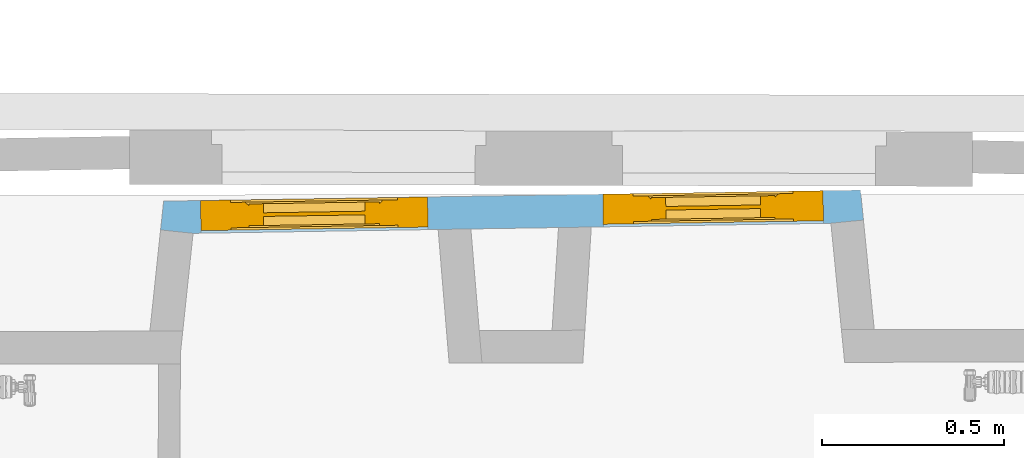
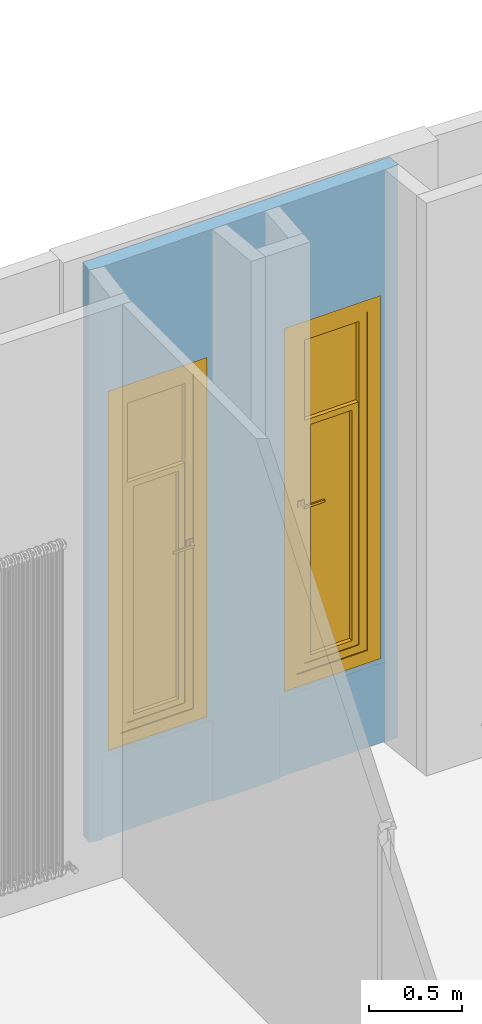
# One storey, part 45 of 66: 2 windows, 4 openings, plus 1 element that does not belong to this part.
"""IFC2X3 building model written with IfcOpenShell, lengths in centimetres."""

from ifc_helpers import new_model, entity, si_unit, converted_unit, direction, frame, origin, origin_with_axes, place, context, subcontext, project, spatial, polyline, outline, extrude, faceted_brep, shape, source, transform, mapped, material, material_list, layer, layer_set, layer_usage, type_object, element, fill, save


model = new_model("IFC2X3")

# Units and contexts
model_context = context("Model", 3, precision=0.0001, world=origin(), true_north=direction((0.225632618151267, 0.974212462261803, 0.0)))
body_context = subcontext(model_context, "Body", "Model", "MODEL_VIEW")
footprint_context = subcontext(model_context, "FootPrint", "Model", "MODEL_VIEW")
profile_context = subcontext(model_context, "Profile", "Model", "MODEL_VIEW")
ifc_project = project(units=[si_unit("LENGTHUNIT", "METRE", prefix="CENTI"), si_unit("AREAUNIT", "SQUARE_METRE", prefix="CENTI"), si_unit("VOLUMEUNIT", "CUBIC_METRE", prefix="CENTI"), converted_unit("PLANEANGLEUNIT", "DEGREE", entity("IfcRatioMeasure", 0.0174532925), si_unit("PLANEANGLEUNIT", "RADIAN"), dimensions=[0, 0, 0, 0, 0, 0, 0])], contexts=[model_context])

# Site, building, storey
site_placement = place(None, origin_with_axes())
site = spatial("IfcSite", under=ifc_project, at=site_placement, Name="Default Site", CompositionType="ELEMENT")
building_placement = place(site_placement, origin_with_axes())
building = spatial("IfcBuilding", under=site, at=building_placement, Name="Default Building", CompositionType="ELEMENT")
storey_placement = place(building_placement, frame((0.0, 0.0, 477.795358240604), z_axis=(0.0, 0.0, 1.0), x_axis=(1.0, 0.0, 0.0)))
storey = spatial("IfcBuildingStorey", under=building, at=storey_placement, Name="Niveau 1", CompositionType="ELEMENT", Elevation=477.795358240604)

# Wall, openings, windows
ifc_material_1 = material(Name="<aucun>")
ifc_layer = layer(ifc_material_1, 9.0)
ifc_layer_set = layer_set([ifc_layer], Name="default")
ifc_layer_usage = layer_usage(ifc_layer_set, "AXIS2", "POSITIVE", -4.5)
wall_type = type_object("IfcWallType", Name="default 90", PredefinedType="NOTDEFINED", material=ifc_layer_set)
wall_placement = place(storey_placement, frame((-307.962944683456, 587.821413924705, 0.0128503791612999), z_axis=(0.0, 0.0, 1.0), x_axis=(0.999874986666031, 0.015811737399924, 0.0)))
wall = element("IfcWallStandardCase", 1, at=wall_placement, inside=storey, type_object=wall_type, material=ifc_layer_usage, Name="Enveloppe 599706", context=body_context, shape_type="SweptSolid", body=[
    extrude(outline(polyline([(106.816633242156, 4.50000000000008), (82.6787422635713, 4.49999694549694), (-1.81313524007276, 4.49999999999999), (-2.77540691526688, -3.41363138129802), (6.158786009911, -4.50000000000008), (82.6785491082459, -4.50000000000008), (106.816633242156, -4.50000000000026), (181.848494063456, -4.50000000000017), (190.817765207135, -3.75691511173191), (190.133697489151, 4.49999999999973), (106.816633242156, 4.50000000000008)])), frame((0.0, 0.0, -2.66453525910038e-13), z_axis=(0.0, 0.0, 1.0), x_axis=(1.0, 0.0, 0.0)), (0.0, 0.0, 1.0), 376.102165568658),
])
opening_1_placement = place(wall_placement, frame((5.08544119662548, 1.13686837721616e-13, 1.77635683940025e-13), z_axis=(0.0, 0.0, 1.0), x_axis=(-1.0, 1.22471477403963e-15, 0.0)))
cartesian_point_1 = entity("IfcCartesianPoint", [0.0, 0.0, 54.0])
cartesian_point_2 = entity("IfcCartesianPoint", [-69.3089871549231, -4.50000000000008])
element("IfcOpeningElement", 2, at=opening_1_placement, cuts=wall, Name="Baie 103207", ObjectType="Recess", shapes=[
    shape(body_context, "Body", "Brep", [faceted_brep([(7.10847696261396e-06, 24.499992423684, -1.92276756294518e-05), (-69.3089985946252, 24.4999924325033, -1.92276756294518e-05), (-69.3089985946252, 24.4999924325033, 53.9999769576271), (7.10847696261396e-06, 24.499992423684, 53.9999769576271), (7.10580479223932e-06, 3.49998594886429, 53.9999769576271), (7.10580479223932e-06, 3.49998594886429, -1.92276756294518e-05), (6.07568608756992e-06, 3.49998594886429, -1.92276756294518e-05), (-69.3089757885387, 3.50001421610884, -1.92276756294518e-05), (-69.3089985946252, 24.5000210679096, -1.92276756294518e-05), (-69.3089985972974, 3.50001421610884, -1.92276756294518e-05), (-69.3089985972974, 3.50001421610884, 53.9999769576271), (-69.3089985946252, 24.5000210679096, 53.9999769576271), (-69.3089757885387, 3.50001421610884, 53.9999769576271), (6.07568608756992e-06, 3.49998594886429, 53.9999769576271), (6.0756860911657e-06, 3.50001420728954, -1.92276756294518e-05), (6.0756860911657e-06, 3.50001420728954, 53.9999769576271)], [[[0, 1, 2, 3]], [[3, 4, 5, 0]], [[0, 6, 7, 8]], [[8, 9, 10, 11]], [[11, 12, 13, 3]], [[12, 7, 14, 15]]])]),
    shape(profile_context, "Profile", "GeometricCurveSet", [entity("IfcGeometricCurveSet", [entity("IfcPolyline", [cartesian_point_1, entity("IfcCartesianPoint", [0.0, 0.0, 0.0]), entity("IfcCartesianPoint", [-69.308987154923, -8.88178419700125e-14, 0.0]), entity("IfcCartesianPoint", [-69.308987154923, -8.88178419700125e-14, 54.0]), cartesian_point_1])])]),
    shape(footprint_context, "FootPrint", "GeometricCurveSet", [entity("IfcGeometricCurveSet", [entity("IfcPolyline", [cartesian_point_2, entity("IfcCartesianPoint", [0.0, -4.49999999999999]), entity("IfcCartesianPoint", [0.0, 4.49999999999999]), entity("IfcCartesianPoint", [-69.3089871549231, 4.4999999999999]), cartesian_point_2])])]),
])
opening_2_placement = place(wall_placement, frame((115.898622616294, 0.0, 1.77635683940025e-13), z_axis=(0.0, 0.0, 1.0), x_axis=(-1.0, 1.79370407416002e-15, 0.0)))
cartesian_point_3 = entity("IfcCartesianPoint", [0.0, 8.88178419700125e-14, 52.9999999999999])
cartesian_point_4 = entity("IfcCartesianPoint", [-67.1698088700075, -4.4999999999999])
element("IfcOpeningElement", 3, at=opening_2_placement, cuts=wall, Name="Baie 103204", ObjectType="Recess", shapes=[
    shape(body_context, "Body", "Brep", [faceted_brep([(-8.58939741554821e-07, 24.5000033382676, -1.92276757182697e-05), (-67.1698028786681, 24.5000033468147, -1.92276757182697e-05), (-67.1698028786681, 24.5000033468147, 53.0000017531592), (-8.58939741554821e-07, 24.5000033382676, 53.0000017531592), (-8.61611899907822e-07, 3.49999686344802, 53.0000017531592), (-8.61611899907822e-07, 3.49999686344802, -1.92276757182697e-05), (-1.89173061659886e-06, 3.49999686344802, -1.92276757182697e-05), (-67.1698039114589, 3.50000873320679, -1.92276757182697e-05), (-67.1698028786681, 24.5000152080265, -1.92276757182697e-05), (-67.1698028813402, 3.50000873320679, -1.92276757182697e-05), (-67.1698028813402, 3.50000873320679, 53.0000017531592), (-67.1698028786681, 24.5000152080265, 53.0000017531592), (-67.1698039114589, 3.50000873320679, 53.0000017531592), (-1.89173061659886e-06, 3.49999686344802, 53.0000017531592), (-1.89173061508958e-06, 3.50000872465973, -1.92276757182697e-05), (-1.89173061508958e-06, 3.50000872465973, 53.0000017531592)], [[[0, 1, 2, 3]], [[3, 4, 5, 0]], [[0, 6, 7, 8]], [[8, 9, 10, 11]], [[11, 12, 13, 3]], [[12, 7, 14, 15]]])]),
    shape(profile_context, "Profile", "GeometricCurveSet", [entity("IfcGeometricCurveSet", [entity("IfcPolyline", [cartesian_point_3, entity("IfcCartesianPoint", [0.0, 8.88178419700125e-14, -8.88178419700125e-14]), entity("IfcCartesianPoint", [-67.1698088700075, 8.88178419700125e-14, -8.88178419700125e-14]), entity("IfcCartesianPoint", [-67.1698088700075, 8.88178419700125e-14, 52.9999999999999]), cartesian_point_3])])]),
    shape(footprint_context, "FootPrint", "GeometricCurveSet", [entity("IfcGeometricCurveSet", [entity("IfcPolyline", [cartesian_point_4, entity("IfcCartesianPoint", [2.22044604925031e-14, -4.4999999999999]), entity("IfcCartesianPoint", [2.22044604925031e-14, 4.50000000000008]), entity("IfcCartesianPoint", [-67.1698088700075, 4.50000000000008]), cartesian_point_4])])]),
])
opening_3_placement = place(wall_placement, frame((119.148622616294, 0.0, 55.5871496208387), z_axis=(0.0, 0.0, 1.0), x_axis=(-1.0, 1.79370407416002e-15, 0.0)))
cartesian_point_5 = entity("IfcCartesianPoint", [0.0, 0.0, 239.0])
cartesian_point_6 = entity("IfcCartesianPoint", [-60.6698088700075, -4.49999999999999])
opening_3 = element("IfcOpeningElement", 4, at=opening_3_placement, cuts=wall, Name="4294966425_11", ObjectType="Opening", shapes=[
    shape(body_context, "Body", "SweptSolid", [extrude(outline(polyline([(-2.22044604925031e-14, 239.0), (-2.22044604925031e-14, 0.0), (60.6698088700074, 0.0), (60.6698088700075, 239.0), (-2.22044604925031e-14, 239.0)])), frame((0.0, -14.5, 0.0), z_axis=(0.0, 1.0, 0.0), x_axis=(-1.0, 0.0, 0.0)), (0.0, 0.0, 1.0), 29.0)]),
    shape(profile_context, "Profile", "GeometricCurveSet", [entity("IfcGeometricCurveSet", [entity("IfcPolyline", [cartesian_point_5, entity("IfcCartesianPoint", [0.0, 0.0, 0.0]), entity("IfcCartesianPoint", [-60.6698088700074, 8.88178419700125e-14, 0.0]), entity("IfcCartesianPoint", [-60.6698088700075, 8.88178419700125e-14, 239.0]), cartesian_point_5])])]),
    shape(footprint_context, "FootPrint", "GeometricCurveSet", [entity("IfcGeometricCurveSet", [entity("IfcPolyline", [cartesian_point_6, entity("IfcCartesianPoint", [2.22044604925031e-14, -4.49999999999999]), entity("IfcCartesianPoint", [2.22044604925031e-14, 4.50000000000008]), entity("IfcCartesianPoint", [-60.6698088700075, 4.50000000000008]), cartesian_point_6])])]),
])
opening_4_placement = place(wall_placement, frame((8.33544119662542, 0.0, 56.5871496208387), z_axis=(0.0, 0.0, 1.0), x_axis=(-1.0, 1.22471477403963e-15, 0.0)))
cartesian_point_7 = entity("IfcCartesianPoint", [0.0, -8.88178419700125e-14, 236.5])
cartesian_point_8 = entity("IfcCartesianPoint", [-62.5589871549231, -4.49999999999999])
opening_4 = element("IfcOpeningElement", 5, at=opening_4_placement, cuts=wall, Name="4294966422_11", ObjectType="Opening", shapes=[
    shape(body_context, "Body", "SweptSolid", [extrude(outline(polyline([(0.0, 236.5), (0.0, -8.88178419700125e-14), (62.5589871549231, -8.88178419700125e-14), (62.5589871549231, 236.5), (0.0, 236.5)])), frame((0.0, -14.5, 0.0), z_axis=(0.0, 1.0, 0.0), x_axis=(-1.0, 0.0, 0.0)), (0.0, 0.0, 1.0), 29.0)]),
    shape(profile_context, "Profile", "GeometricCurveSet", [entity("IfcGeometricCurveSet", [entity("IfcPolyline", [cartesian_point_7, entity("IfcCartesianPoint", [0.0, -8.88178419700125e-14, -8.88178419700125e-14]), entity("IfcCartesianPoint", [-62.558987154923, 0.0, -8.88178419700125e-14]), entity("IfcCartesianPoint", [-62.558987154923, 0.0, 236.5]), cartesian_point_7])])]),
    shape(footprint_context, "FootPrint", "GeometricCurveSet", [entity("IfcGeometricCurveSet", [entity("IfcPolyline", [cartesian_point_8, entity("IfcCartesianPoint", [0.0, -4.50000000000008]), entity("IfcCartesianPoint", [4.44089209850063e-14, 4.4999999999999]), entity("IfcCartesianPoint", [-62.5589871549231, 4.49999999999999]), cartesian_point_8])])]),
])
ifc_material_2 = material(Name="Transparent")
ifc_material_3 = material(Name="Bleu france")
ifc_material_4 = material(Name="Aluminium satiné")
ifc_material_list = material_list([ifc_material_2, ifc_material_3, ifc_material_4])
window_style = type_object("IfcWindowStyle", Name="FN[R] 1VBM 2 DV", ConstructionType="NOTDEFINED", OperationType="DOUBLE_PANEL_HORIZONTAL", ParameterTakesPrecedence=True, Sizeable=False, material=ifc_material_list)
shared_shape_1 = source(origin_with_axes(), body_context, "Body", "Brep", [
    faceted_brep([(-22.9794934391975, 228.200006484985, -4.14999984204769), (-22.9794934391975, 228.200006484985, 4.14999984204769), (-22.9794934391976, 8.29999968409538, 4.14999984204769), (-22.9794934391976, 8.29999968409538, -4.14999984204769), (-31.2794923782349, 236.500000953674, 4.14999984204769), (-31.2794923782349, 0.0, 4.14999984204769), (-22.9794934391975, 8.29999968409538, 4.14999984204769), (-31.2794923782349, 236.500000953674, -4.14999984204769), (-31.2794923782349, 5.21181905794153e-31, -4.14999984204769), (-31.2794923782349, 5.21181905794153e-31, 4.14999984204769), (-22.9794934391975, 8.29999968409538, -4.14999984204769), (-31.2794923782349, 0.0, -4.14999984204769), (22.9794934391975, 8.29999968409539, 4.14999984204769), (22.9794934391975, 8.29999968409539, -4.14999984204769), (31.2794923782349, 0.0, 4.14999984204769), (22.9794934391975, 8.29999968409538, 4.14999984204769), (31.2794923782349, 0.0, -4.14999984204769), (22.9794934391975, 8.29999968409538, -4.14999984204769), (22.9794934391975, 228.200006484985, 4.14999984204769), (22.9794934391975, 228.200006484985, -4.14999984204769), (31.2794923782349, 236.500000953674, 4.14999984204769), (31.2794923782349, 236.500000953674, -4.14999984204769)], [[[0, 1, 2, 3]], [[1, 4, 5, 6]], [[4, 7, 8, 9]], [[7, 0, 10, 11]], [[10, 6, 12, 13]], [[6, 5, 14, 15]], [[5, 11, 16, 14]], [[11, 10, 17, 16]], [[17, 15, 18, 19]], [[15, 14, 20, 18]], [[14, 16, 21, 20]], [[16, 17, 19, 21]], [[19, 18, 1, 0]], [[18, 20, 4, 1]], [[20, 21, 7, 4]], [[21, 19, 0, 7]]]),
    faceted_brep([(-18.9794942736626, 224.200010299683, -3.50000001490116), (-17.9794940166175, 223.200011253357, -2.49999975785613), (-17.9794940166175, 13.3000001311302, -2.49999975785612), (-18.9794942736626, 12.3000003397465, -3.50000001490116), (-17.9794937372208, 223.200011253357, -2.5000000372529), (-17.9794937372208, 223.200011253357, 3.50000001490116), (-17.9794937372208, 13.3000001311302, 3.50000001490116), (-17.9794937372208, 13.3000001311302, -2.5000000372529), (-22.9794934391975, 228.200006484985, 3.50000001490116), (-22.9794934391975, 8.29999968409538, 3.50000001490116), (-22.9794934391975, 228.200006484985, -3.50000001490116), (-22.9794934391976, 8.29999968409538, -3.50000001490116), (-22.9794934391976, 8.29999968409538, 3.50000001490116), (-22.9794934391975, 8.29999968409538, -3.50000001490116), (-17.9794937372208, 13.3000002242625, -2.50000013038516), (17.9794937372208, 13.3000002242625, -2.50000013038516), (18.9794942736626, 12.3000003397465, -3.50000001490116), (17.9794937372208, 13.3000001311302, 3.50000001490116), (17.9794937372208, 13.3000001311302, -2.5000000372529), (22.9794934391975, 8.29999968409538, 3.50000001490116), (22.9794934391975, 8.29999968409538, -3.50000001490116), (17.9794940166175, 13.3000001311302, -2.49999975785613), (17.9794940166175, 223.200011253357, -2.49999975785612), (18.9794942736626, 224.200010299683, -3.50000001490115), (17.9794937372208, 223.200011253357, 3.50000001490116), (17.9794937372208, 223.200011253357, -2.5000000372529), (22.9794934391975, 228.200006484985, 3.50000001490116), (22.9794934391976, 228.200006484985, -3.50000001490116), (22.9794934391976, 228.200006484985, 3.50000001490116), (18.9794942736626, 224.200010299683, -3.50000001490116), (22.9794934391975, 228.200006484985, -3.50000001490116), (17.9794937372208, 223.200010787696, -2.5000005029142), (-17.9794937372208, 223.200010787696, -2.50000050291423), (-18.9794942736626, 224.200010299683, -3.50000001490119)], [[[0, 1, 2, 3]], [[4, 5, 6, 7]], [[5, 8, 9, 6]], [[8, 10, 11, 12]], [[10, 0, 3, 13]], [[3, 14, 15, 16]], [[7, 6, 17, 18]], [[6, 9, 19, 17]], [[9, 13, 20, 19]], [[13, 3, 16, 20]], [[16, 21, 22, 23]], [[18, 17, 24, 25]], [[17, 19, 26, 24]], [[19, 20, 27, 28]], [[20, 16, 29, 30]], [[29, 31, 32, 33]], [[25, 24, 5, 4]], [[24, 26, 8, 5]], [[26, 30, 10, 8]], [[30, 29, 0, 10]]]),
    faceted_brep([(22.4794939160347, 116.250002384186, 3.50000001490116), (18.4794932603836, 116.250002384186, 3.50000001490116), (18.4794932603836, 120.249998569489, 3.50000001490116), (22.4794939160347, 120.249998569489, 3.50000001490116), (22.4794939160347, 120.249998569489, 4.30000014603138), (18.4794932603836, 120.249998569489, 4.30000014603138), (18.4794932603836, 116.250002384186, 4.30000014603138), (22.4794939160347, 116.250002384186, 4.30000014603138)], [[[0, 1, 2, 3]], [[4, 5, 6, 7]], [[3, 2, 5, 4]], [[2, 1, 6, 5]], [[1, 0, 7, 6]], [[0, 3, 4, 7]]]),
    faceted_brep([(20.9794938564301, 117.499995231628, 4.30000014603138), (19.9794933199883, 117.499995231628, 4.30000014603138), (19.9794933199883, 119.000005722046, 4.30000014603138), (20.9794938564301, 119.000005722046, 4.30000014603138), (20.9794938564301, 119.000005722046, 8.29999968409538), (19.9794936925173, 119.000005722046, 7.29999952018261), (19.9794936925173, 117.499995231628, 7.29999952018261), (20.9794938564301, 117.499995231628, 8.29999968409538), (19.9794933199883, 119.000005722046, 7.29999989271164), (19.9794933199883, 117.499995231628, 7.29999989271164)], [[[0, 1, 2, 3]], [[4, 5, 6, 7]], [[3, 2, 8, 4]], [[2, 1, 9, 8]], [[1, 0, 7, 9]], [[0, 3, 4, 7]]]),
    faceted_brep([(20.9794938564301, 117.499995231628, 8.29999968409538), (19.9794936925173, 117.499995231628, 7.29999952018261), (19.9794936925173, 119.000005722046, 7.29999952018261), (20.9794938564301, 119.000005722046, 8.29999968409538), (7.97949358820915, 119.000005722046, 8.29999968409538), (7.97949358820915, 119.000005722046, 7.29999989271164), (7.97949358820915, 117.499995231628, 7.29999989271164), (7.97949358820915, 117.499995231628, 8.29999968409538), (19.9794933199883, 119.000005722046, 7.29999989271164), (19.9794933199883, 117.499995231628, 7.29999989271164)], [[[0, 1, 2, 3]], [[4, 5, 6, 7]], [[3, 8, 5, 4]], [[8, 9, 6, 5]], [[9, 0, 7, 6]], [[0, 3, 4, 7]]]),
    faceted_brep([(17.9794937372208, 223.200011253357, -0.499999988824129), (17.9794937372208, 170.724999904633, -0.499999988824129), (-17.9794937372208, 170.724999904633, -0.499999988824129), (-17.9794937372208, 223.200011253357, -0.499999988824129), (-17.9794937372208, 223.200011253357, 0.499999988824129), (-17.9794937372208, 170.724999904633, 0.499999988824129), (17.9794937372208, 170.724999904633, 0.499999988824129), (17.9794937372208, 223.200011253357, 0.499999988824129)], [[[0, 1, 2, 3]], [[4, 5, 6, 7]], [[3, 2, 5, 4]], [[2, 1, 6, 5]], [[1, 0, 7, 6]], [[0, 3, 4, 7]]]),
    faceted_brep([(-13.9794930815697, 166.72500371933, -2.99999993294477), (-13.9794930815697, 166.72500371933, 2.99999993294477), (-13.9794930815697, 17.2999992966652, 2.99999993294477), (-13.9794930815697, 17.2999992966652, -2.99999993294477), (-17.9794937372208, 170.724999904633, 2.99999993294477), (-17.9794937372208, 13.3000001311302, 2.99999993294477), (-17.9794937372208, 170.724999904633, -2.99999993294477), (-17.9794937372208, 13.3000001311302, -2.99999993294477), (13.9794930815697, 17.2999992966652, 2.99999993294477), (13.9794930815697, 17.2999992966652, -2.99999993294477), (17.9794937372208, 13.3000001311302, 2.99999993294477), (17.9794937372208, 13.3000001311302, -2.99999993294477), (13.9794930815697, 166.72500371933, 2.99999993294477), (13.9794930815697, 166.72500371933, -2.99999993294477), (17.9794937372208, 170.724999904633, 2.99999993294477), (17.9794937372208, 170.724999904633, -2.99999993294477)], [[[0, 1, 2, 3]], [[1, 4, 5, 2]], [[4, 6, 7, 5]], [[6, 0, 3, 7]], [[3, 2, 8, 9]], [[2, 5, 10, 8]], [[5, 7, 11, 10]], [[7, 3, 9, 11]], [[9, 8, 12, 13]], [[8, 10, 14, 12]], [[10, 11, 15, 14]], [[11, 9, 13, 15]], [[13, 12, 1, 0]], [[12, 14, 4, 1]], [[14, 15, 6, 4]], [[15, 13, 0, 6]]]),
    faceted_brep([(13.9794930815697, 166.72500371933, -0.499999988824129), (13.9794930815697, 17.2999992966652, -0.499999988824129), (-13.9794930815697, 17.2999992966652, -0.499999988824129), (-13.9794930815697, 166.72500371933, -0.499999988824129), (-13.9794930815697, 166.72500371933, 0.499999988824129), (-13.9794930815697, 17.2999992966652, 0.499999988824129), (13.9794930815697, 17.2999992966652, 0.499999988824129), (13.9794930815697, 166.72500371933, 0.499999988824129)], [[[0, 1, 2, 3]], [[4, 5, 6, 7]], [[3, 2, 5, 4]], [[2, 1, 6, 5]], [[1, 0, 7, 6]], [[0, 3, 4, 7]]]),
])
window_1_placement = place(opening_4_placement, frame((-62.5589871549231, -4.50000000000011, -7.105427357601e-15), z_axis=(0.0, 0.0, 1.0), x_axis=(1.0, 0.0, 0.0)))
window_1 = element("IfcWindow", 6, at=window_1_placement, inside=storey, type_object=window_style, material=ifc_material_list, Name="Fenêtre 103205", OverallHeight=236.5, OverallWidth=62.5589871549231, context=body_context, shape_type="MappedRepresentation", body=[
    mapped(shared_shape_1, transform((31.2794935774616, 4.14999999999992, 0.0), x_axis=(-1.0, 0.0, 0.0), y_axis=(0.0, 0.0, 1.0), z_axis=(0.0, 1.0, 0.0), scale=1.0, scale2=1.0, scale3=1.0, uniform=False)),
])
fill(opening_4, window_1)
shared_shape_2 = source(origin_with_axes(), body_context, "Body", "Brep", [
    faceted_brep([(22.0349043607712, 230.699992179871, 4.14999984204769), (22.0349043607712, 230.699992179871, -4.14999984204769), (22.0349043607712, 8.29999968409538, -4.14999984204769), (22.0349043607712, 8.29999968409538, 4.14999984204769), (30.3349047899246, 239.000010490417, -4.14999984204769), (30.3349047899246, 8.88178419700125e-14, -4.14999984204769), (30.3349047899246, 239.000010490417, 4.14999984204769), (30.3349047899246, 8.88178419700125e-14, 4.14999984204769), (-22.0349043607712, 8.29999968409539, -4.14999984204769), (-22.0349043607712, 8.29999968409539, 4.14999984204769), (-30.3349047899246, 8.88178419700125e-14, -4.1499998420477), (-22.0349043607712, 8.29999968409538, -4.1499998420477), (-30.3349047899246, 8.88178419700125e-14, 4.14999984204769), (-30.3349047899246, 8.88178419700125e-14, -4.14999984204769), (-22.0349043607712, 8.29999968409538, 4.14999984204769), (-30.3349047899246, 8.88178419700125e-14, 4.14999984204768), (-22.0349043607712, 8.29999968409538, -4.14999984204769), (-22.0349043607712, 230.699992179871, -4.14999984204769), (-22.0349043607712, 230.699992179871, 4.14999984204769), (-30.3349047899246, 239.000010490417, -4.14999984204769), (-30.3349047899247, 239.000010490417, 4.14999984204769), (-30.3349047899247, 239.000010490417, -4.14999984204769), (-30.3349047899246, 239.000010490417, 4.14999984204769), (22.0349043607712, 230.699992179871, 4.1499998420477), (30.3349047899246, 239.000010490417, 4.1499998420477)], [[[0, 1, 2, 3]], [[1, 4, 5, 2]], [[4, 6, 7, 5]], [[6, 0, 3, 7]], [[3, 2, 8, 9]], [[2, 5, 10, 11]], [[5, 7, 12, 13]], [[7, 3, 14, 15]], [[14, 16, 17, 18]], [[16, 13, 19, 17]], [[13, 12, 20, 21]], [[12, 14, 18, 22]], [[18, 17, 1, 0]], [[17, 19, 4, 1]], [[19, 22, 6, 4]], [[22, 18, 23, 24]]]),
    faceted_brep([(17.0349046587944, 225.699996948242, 3.50000001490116), (17.0349046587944, 225.699996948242, -2.5000000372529), (17.0349046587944, 13.3000001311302, -2.5000000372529), (17.0349046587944, 13.3000001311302, 3.50000001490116), (18.0349041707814, 226.699995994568, -3.49999954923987), (18.0349041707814, 12.3000003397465, -3.49999954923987), (18.0349037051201, 226.699995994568, -3.50000001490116), (22.0349043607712, 230.699992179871, -3.50000001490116), (22.0349043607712, 8.29999968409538, -3.50000001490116), (18.0349037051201, 12.3000003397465, -3.50000001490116), (22.0349043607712, 230.699992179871, 3.50000001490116), (22.0349043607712, 8.29999968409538, 3.50000001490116), (-17.0349046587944, 13.3000001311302, -2.5000000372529), (-17.0349046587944, 13.3000001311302, 3.50000001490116), (18.0349037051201, 12.3000002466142, -3.4999999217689), (-18.0349037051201, 12.3000002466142, -3.4999999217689), (-22.0349043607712, 8.29999968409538, -3.50000001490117), (-18.0349037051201, 12.3000003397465, -3.50000001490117), (-22.0349043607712, 8.29999968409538, 3.50000001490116), (-22.0349043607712, 8.29999968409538, -3.50000001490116), (-17.0349046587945, 225.699996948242, -2.5000000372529), (-17.0349046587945, 225.699996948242, 3.50000001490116), (-18.0349041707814, 12.3000003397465, -3.49999954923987), (-18.0349041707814, 226.699995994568, -3.49999954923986), (-17.0349046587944, 225.699996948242, -2.50000003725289), (-18.0349037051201, 12.3000003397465, -3.50000001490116), (-22.0349043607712, 230.699992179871, -3.50000001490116), (-18.0349037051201, 226.699995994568, -3.50000001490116), (-22.0349043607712, 230.699992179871, 3.50000001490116), (-17.0349046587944, 225.699996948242, 3.50000001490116), (-17.0349046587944, 225.699996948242, -2.5000000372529), (-18.0349037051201, 226.699996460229, -3.49999954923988), (18.0349037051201, 226.699996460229, -3.49999954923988), (17.0349046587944, 225.699996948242, 3.50000001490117), (22.0349043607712, 230.699992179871, 3.50000001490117)], [[[0, 1, 2, 3]], [[1, 4, 5, 2]], [[6, 7, 8, 9]], [[7, 10, 11, 8]], [[10, 0, 3, 11]], [[3, 2, 12, 13]], [[2, 14, 15, 12]], [[9, 8, 16, 17]], [[8, 11, 18, 19]], [[11, 3, 13, 18]], [[13, 12, 20, 21]], [[12, 22, 23, 24]], [[25, 19, 26, 27]], [[19, 18, 28, 26]], [[18, 13, 29, 28]], [[29, 30, 1, 0]], [[30, 31, 32, 1]], [[27, 26, 7, 6]], [[26, 28, 10, 7]], [[28, 29, 33, 34]]]),
    faceted_brep([(-21.5349048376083, 121.50000333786, 3.50000001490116), (-17.5349041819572, 121.50000333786, 3.50000001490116), (-17.5349041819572, 117.499995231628, 3.50000001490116), (-21.5349048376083, 117.499995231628, 3.50000001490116), (-21.5349048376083, 117.499995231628, 4.30000014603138), (-17.5349041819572, 117.499995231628, 4.30000014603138), (-17.5349041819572, 121.50000333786, 4.30000014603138), (-21.5349048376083, 121.50000333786, 4.30000014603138)], [[[0, 1, 2, 3]], [[4, 5, 6, 7]], [[3, 2, 5, 4]], [[2, 1, 6, 5]], [[1, 0, 7, 6]], [[0, 3, 4, 7]]]),
    faceted_brep([(-20.0349047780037, 120.249998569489, 4.30000014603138), (-19.0349042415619, 120.249998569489, 4.30000014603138), (-19.0349042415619, 118.75, 4.30000014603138), (-20.0349047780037, 118.75, 4.30000014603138), (-20.0349047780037, 118.75, 8.29999968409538), (-19.0349046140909, 118.75, 7.29999952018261), (-19.0349046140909, 120.249998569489, 7.29999952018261), (-20.0349047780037, 120.249998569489, 8.29999968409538), (-19.0349042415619, 118.75, 7.29999989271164), (-19.0349042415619, 120.249998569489, 7.29999989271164)], [[[0, 1, 2, 3]], [[4, 5, 6, 7]], [[3, 2, 8, 4]], [[2, 1, 9, 8]], [[1, 0, 7, 9]], [[0, 3, 4, 7]]]),
    faceted_brep([(-20.0349047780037, 120.249998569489, 8.29999968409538), (-19.0349046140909, 120.249998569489, 7.29999952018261), (-19.0349046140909, 118.75, 7.29999952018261), (-20.0349047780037, 118.75, 8.29999968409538), (-7.03490450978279, 118.75, 8.29999968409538), (-7.03490450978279, 118.75, 7.29999989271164), (-7.03490450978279, 120.249998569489, 7.29999989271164), (-7.03490450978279, 120.249998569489, 8.29999968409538), (-19.0349042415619, 118.75, 7.29999989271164), (-19.0349042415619, 120.249998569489, 7.29999989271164)], [[[0, 1, 2, 3]], [[4, 5, 6, 7]], [[3, 8, 5, 4]], [[8, 9, 6, 5]], [[9, 0, 7, 6]], [[0, 3, 4, 7]]]),
    faceted_brep([(-17.0349046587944, 225.699996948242, 0.499999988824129), (-17.0349046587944, 172.599995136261, 0.499999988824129), (17.0349046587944, 172.599995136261, 0.499999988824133), (17.0349046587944, 225.699996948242, 0.499999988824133), (17.0349046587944, 225.699996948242, -0.499999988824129), (17.0349046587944, 172.599995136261, -0.499999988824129), (-17.0349046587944, 172.599995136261, -0.499999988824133), (-17.0349046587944, 225.699996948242, -0.499999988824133), (17.0349046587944, 225.699996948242, 0.499999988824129), (17.0349046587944, 172.599995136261, 0.499999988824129), (-17.0349046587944, 172.599995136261, -0.499999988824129), (-17.0349046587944, 225.699996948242, -0.499999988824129)], [[[0, 1, 2, 3]], [[4, 5, 6, 7]], [[8, 9, 5, 4]], [[9, 1, 10, 5]], [[1, 0, 11, 10]], [[0, 8, 4, 11]]]),
    faceted_brep([(13.0349040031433, 168.599998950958, 2.99999993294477), (13.0349040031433, 168.599998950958, -2.99999993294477), (13.0349040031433, 17.2999992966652, -2.99999993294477), (13.0349040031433, 17.2999992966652, 2.99999993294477), (17.0349046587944, 172.599995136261, -2.99999993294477), (17.0349046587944, 13.3000001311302, -2.99999993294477), (17.0349046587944, 172.599995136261, 2.99999993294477), (17.0349046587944, 13.3000001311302, 2.99999993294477), (-13.0349040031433, 17.2999992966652, -2.99999993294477), (-13.0349040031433, 17.2999992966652, 2.99999993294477), (-17.0349046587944, 13.3000001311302, -2.99999993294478), (-13.0349040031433, 17.2999992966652, -2.99999993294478), (-17.0349046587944, 13.3000001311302, 2.99999993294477), (-17.0349046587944, 13.3000001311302, -2.99999993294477), (-13.0349040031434, 168.599998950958, -2.99999993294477), (-13.0349040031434, 168.599998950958, 2.99999993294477), (-17.0349046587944, 172.599995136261, -2.99999993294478), (-13.0349040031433, 168.599998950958, -2.99999993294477), (-17.0349046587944, 172.599995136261, 2.99999993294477), (-17.0349046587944, 172.599995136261, -2.99999993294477), (-13.0349040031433, 17.2999992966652, 2.99999993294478), (-13.0349040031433, 168.599998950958, 2.99999993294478), (-13.0349040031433, 168.599998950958, 2.99999993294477), (13.0349040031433, 168.599998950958, 2.99999993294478), (17.0349046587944, 172.599995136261, 2.99999993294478)], [[[0, 1, 2, 3]], [[1, 4, 5, 2]], [[4, 6, 7, 5]], [[6, 0, 3, 7]], [[3, 2, 8, 9]], [[2, 5, 10, 11]], [[5, 7, 12, 13]], [[7, 3, 9, 12]], [[9, 8, 14, 15]], [[8, 10, 16, 17]], [[13, 12, 18, 19]], [[12, 20, 21, 18]], [[22, 17, 1, 0]], [[17, 16, 4, 1]], [[19, 18, 6, 4]], [[18, 21, 23, 24]]]),
    faceted_brep([(-13.0349040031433, 168.599998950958, 0.499999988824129), (-13.0349040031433, 17.2999992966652, 0.499999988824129), (13.0349040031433, 17.2999992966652, 0.499999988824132), (13.0349040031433, 168.599998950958, 0.499999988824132), (13.0349040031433, 168.599998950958, -0.499999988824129), (13.0349040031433, 17.2999992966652, -0.499999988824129), (-13.0349040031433, 17.2999992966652, -0.499999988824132), (-13.0349040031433, 168.599998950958, -0.499999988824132), (13.0349040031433, 168.599998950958, 0.499999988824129), (13.0349040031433, 17.2999992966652, 0.499999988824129), (-13.0349040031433, 17.2999992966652, -0.499999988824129), (-13.0349040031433, 168.599998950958, -0.499999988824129)], [[[0, 1, 2, 3]], [[4, 5, 6, 7]], [[8, 9, 5, 4]], [[9, 1, 10, 5]], [[1, 0, 11, 10]], [[0, 8, 4, 11]]]),
])
window_2_placement = place(opening_3_placement, frame((-60.6698088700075, -4.5, 0.0), z_axis=(0.0, 0.0, 1.0), x_axis=(1.0, 0.0, 0.0)))
window_2 = element("IfcWindow", 7, at=window_2_placement, inside=storey, type_object=window_style, material=ifc_material_list, Name="Fenêtre 103202", OverallHeight=239.0, OverallWidth=60.6698088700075, context=body_context, shape_type="MappedRepresentation", body=[
    mapped(shared_shape_2, transform((30.3349044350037, 4.15000000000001, 0.0), x_axis=(-1.0, 0.0, 0.0), y_axis=(0.0, 0.0, 1.0), z_axis=(0.0, 1.0, 0.0), scale=1.0, scale2=1.0, scale3=1.0, uniform=False)),
])
fill(opening_3, window_2)

save(model, "model.ifc")
